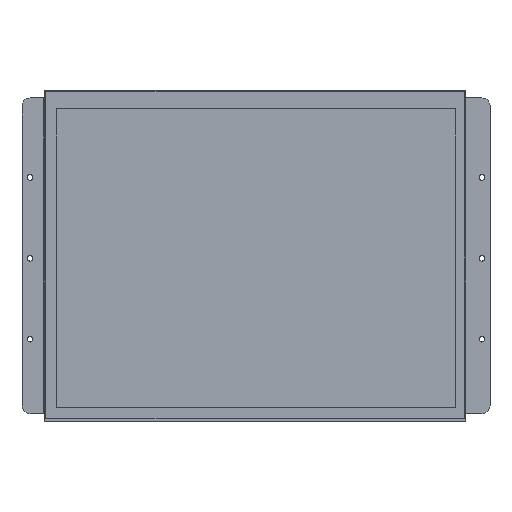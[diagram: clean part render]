
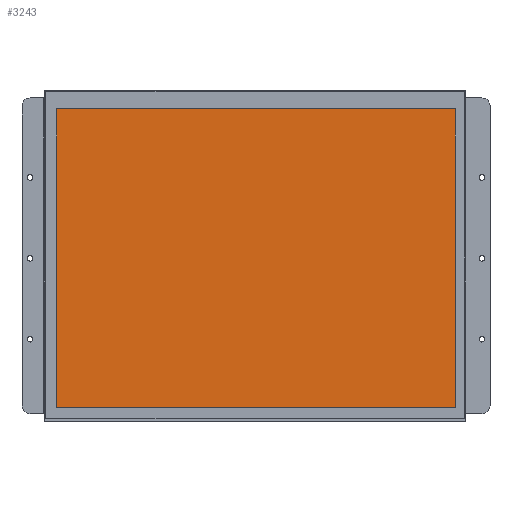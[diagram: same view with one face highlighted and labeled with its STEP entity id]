
A CAD part, top view. The second image highlights one B-rep face of the part: STEP entity #3243.
In plain terms, the highlighted planar face has unit normal (0, 0, 1).
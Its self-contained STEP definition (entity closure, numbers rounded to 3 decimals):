
#1119=DIRECTION('',(0.,1.,0.));
#1120=VECTOR('',#1119,184.5);
#1121=CARTESIAN_POINT('',(123.,-92.25,9.1));
#1122=LINE('',#1121,#1120);
#1123=DIRECTION('',(1.,0.,0.));
#1124=VECTOR('',#1123,246.);
#1125=CARTESIAN_POINT('',(-123.,-92.25,9.1));
#1126=LINE('',#1125,#1124);
#1127=DIRECTION('',(0.,-1.,0.));
#1128=VECTOR('',#1127,184.5);
#1129=CARTESIAN_POINT('',(-123.,92.25,9.1));
#1130=LINE('',#1129,#1128);
#1131=DIRECTION('',(-1.,0.,0.));
#1132=VECTOR('',#1131,246.);
#1133=CARTESIAN_POINT('',(123.,92.25,9.1));
#1134=LINE('',#1133,#1132);
#1535=CARTESIAN_POINT('',(123.,-92.25,9.1));
#1536=CARTESIAN_POINT('',(123.,92.25,9.1));
#1537=VERTEX_POINT('',#1535);
#1538=VERTEX_POINT('',#1536);
#1539=CARTESIAN_POINT('',(-123.,92.25,9.1));
#1540=VERTEX_POINT('',#1539);
#1541=CARTESIAN_POINT('',(-123.,-92.25,9.1));
#1542=VERTEX_POINT('',#1541);
#3232=CARTESIAN_POINT('',(-129.9,103.,9.1));
#3233=DIRECTION('',(0.,0.,1.));
#3234=DIRECTION('',(-1.,0.,0.));
#3235=AXIS2_PLACEMENT_3D('',#3232,#3233,#3234);
#3236=PLANE('',#3235);
#3237=ORIENTED_EDGE('',*,*,#3184,.F.);
#3238=ORIENTED_EDGE('',*,*,#3199,.F.);
#3239=ORIENTED_EDGE('',*,*,#3213,.F.);
#3240=ORIENTED_EDGE('',*,*,#3226,.F.);
#3241=EDGE_LOOP('',(#3237,#3238,#3239,#3240));
#3242=FACE_OUTER_BOUND('',#3241,.F.);
#3184=EDGE_CURVE('',#1537,#1538,#1122,.T.);
#3199=EDGE_CURVE('',#1542,#1537,#1126,.T.);
#3213=EDGE_CURVE('',#1540,#1542,#1130,.T.);
#3226=EDGE_CURVE('',#1538,#1540,#1134,.T.);
#3243=ADVANCED_FACE('',(#3242),#3236,.T.);
